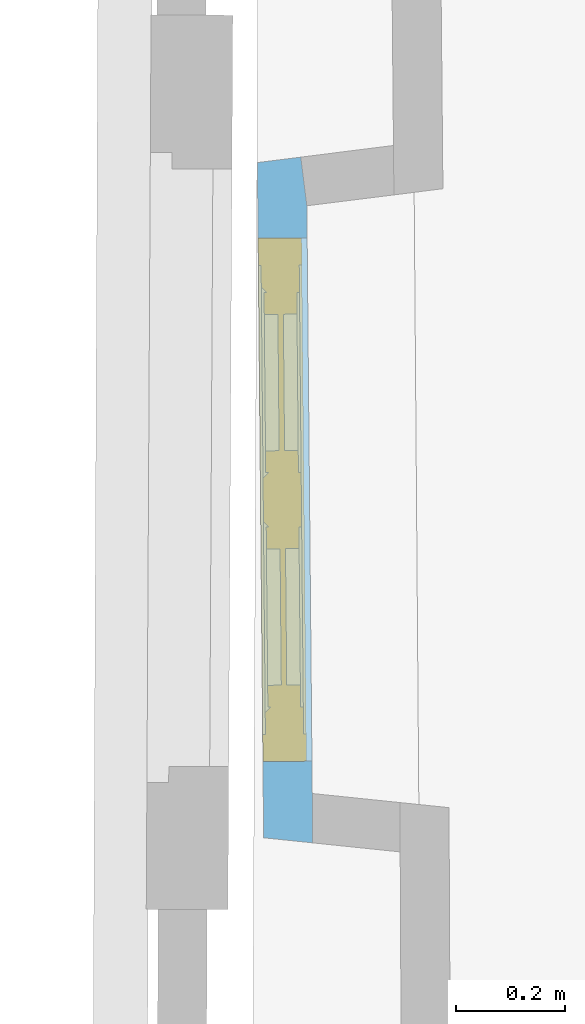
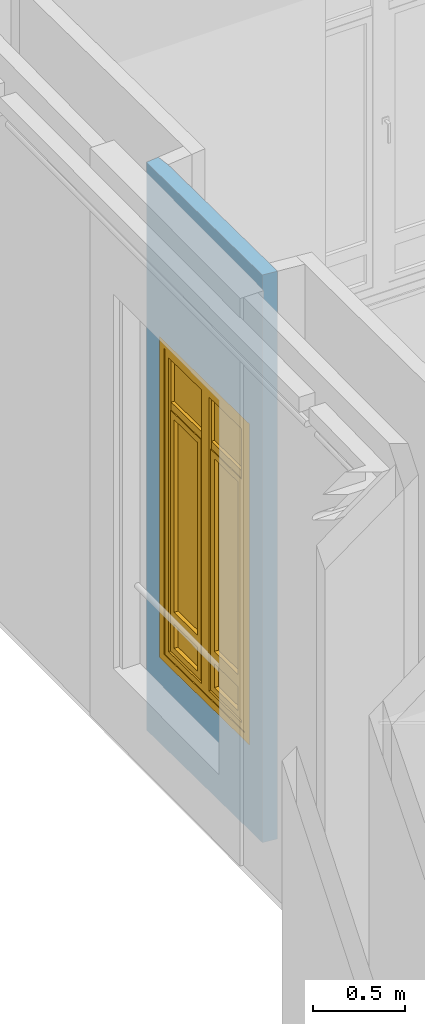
# One storey, part 33 of 66: 1 window, 2 openings, plus 1 element that does not belong to this part.
"""IFC2X3 building model written with IfcOpenShell, lengths in centimetres."""

from ifc_helpers import new_model, entity, si_unit, converted_unit, direction, frame, origin, origin_with_axes, place, context, subcontext, project, spatial, polyline, outline, extrude, faceted_brep, shape, source, transform, mapped, material, material_list, layer, layer_set, layer_usage, type_object, element, fill, save


model = new_model("IFC2X3")

# Units and contexts
model_context = context("Model", 3, precision=0.0001, world=origin(), true_north=direction((0.225632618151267, 0.974212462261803, 0.0)))
body_context = subcontext(model_context, "Body", "Model", "MODEL_VIEW")
footprint_context = subcontext(model_context, "FootPrint", "Model", "MODEL_VIEW")
profile_context = subcontext(model_context, "Profile", "Model", "MODEL_VIEW")
ifc_project = project(units=[si_unit("LENGTHUNIT", "METRE", prefix="CENTI"), si_unit("AREAUNIT", "SQUARE_METRE", prefix="CENTI"), si_unit("VOLUMEUNIT", "CUBIC_METRE", prefix="CENTI"), converted_unit("PLANEANGLEUNIT", "DEGREE", entity("IfcRatioMeasure", 0.0174532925), si_unit("PLANEANGLEUNIT", "RADIAN"), dimensions=[0, 0, 0, 0, 0, 0, 0])], contexts=[model_context])

# Site, building, storey
site_placement = place(None, origin_with_axes())
site = spatial("IfcSite", under=ifc_project, at=site_placement, Name="Default Site", CompositionType="ELEMENT")
building_placement = place(site_placement, origin_with_axes())
building = spatial("IfcBuilding", under=site, at=building_placement, Name="Default Building", CompositionType="ELEMENT")
storey_placement = place(building_placement, frame((0.0, 0.0, 477.795358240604), z_axis=(0.0, 0.0, 1.0), x_axis=(1.0, 0.0, 0.0)))
storey = spatial("IfcBuildingStorey", under=building, at=storey_placement, Name="Niveau 1", CompositionType="ELEMENT", Elevation=477.795358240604)

# Wall, openings, window
ifc_material_1 = material(Name="<aucun>")
ifc_layer = layer(ifc_material_1, 9.0)
ifc_layer_set = layer_set([ifc_layer], Name="default")
ifc_layer_usage = layer_usage(ifc_layer_set, "AXIS2", "POSITIVE", -4.5)
wall_type = type_object("IfcWallType", Name="default 90", PredefinedType="NOTDEFINED", material=ifc_layer_set)
wall_placement = place(storey_placement, frame((-1233.72467583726, 380.76500365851, 0.0128503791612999), z_axis=(0.0, 0.0, 1.0), x_axis=(-0.00919165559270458, 0.999957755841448, 0.0)))
wall = element("IfcWallStandardCase", 1, at=wall_placement, inside=storey, type_object=wall_type, material=ifc_layer_usage, Name="Enveloppe 601372", context=body_context, shape_type="SweptSolid", body=[
    extrude(outline(polyline([(135.22010470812, 4.4999999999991), (11.294850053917, 4.49999999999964), (10.2808484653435, -4.49999999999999), (127.20550541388, -4.5000000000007), (136.145332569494, -3.46101471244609), (135.22010470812, 4.4999999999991)])), frame((0.0, 0.0, -8.88178419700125e-14), z_axis=(0.0, 0.0, 1.0), x_axis=(1.0, 0.0, 0.0)), (0.0, 0.0, 1.0), 376.102165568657),
])
opening_1_placement = place(wall_placement, frame((18.7711194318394, -2.27373675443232e-13, -3.5527136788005e-13), z_axis=(0.0, 0.0, 1.0), x_axis=(-1.0, 4.21537804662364e-15, 0.0)))
cartesian_point_1 = entity("IfcCartesianPoint", [0.0, -1.77635683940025e-13, 52.4999999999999])
cartesian_point_2 = entity("IfcCartesianPoint", [-109.068166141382, -4.49999999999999])
element("IfcOpeningElement", 2, at=opening_1_placement, cuts=wall, Name="Baie 115414", ObjectType="Recess", shapes=[
    shape(body_context, "Body", "Brep", [faceted_brep([(-6.89122297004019e-06, 24.4999788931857, -1.92276751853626e-05), (-109.068144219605, 24.4999788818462, -1.92276751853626e-05), (-109.068144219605, 24.4999788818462, 52.499990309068), (-6.89122297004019e-06, 24.4999788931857, 52.499990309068), (-6.88903966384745e-06, 3.50004163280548, 52.499990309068), (-6.88903966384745e-06, 3.50004163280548, -1.92276751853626e-05), (-7.40036956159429e-06, 3.50004163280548, -1.92276751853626e-05), (-109.068145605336, 3.49996058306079, -1.92276751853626e-05), (-109.068144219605, 24.4999932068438, -1.92276751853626e-05), (-109.068144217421, 3.49996058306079, -1.92276751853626e-05), (-109.068144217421, 3.49996058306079, 52.499990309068), (-109.068144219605, 24.4999932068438, 52.499990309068), (-109.068145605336, 3.49996058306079, 52.499990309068), (-7.40036956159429e-06, 3.50004163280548, 52.499990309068), (-7.40036955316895e-06, 3.49996059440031, -1.92276751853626e-05), (-7.40036955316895e-06, 3.49996059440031, 52.499990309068)], [[[0, 1, 2, 3]], [[3, 4, 5, 0]], [[0, 6, 7, 8]], [[8, 9, 10, 11]], [[11, 12, 13, 3]], [[12, 7, 14, 15]]])]),
    shape(profile_context, "Profile", "GeometricCurveSet", [entity("IfcGeometricCurveSet", [entity("IfcPolyline", [cartesian_point_1, entity("IfcCartesianPoint", [0.0, -1.77635683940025e-13, -8.88178419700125e-14]), entity("IfcCartesianPoint", [-109.068166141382, 0.0, -8.88178419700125e-14]), entity("IfcCartesianPoint", [-109.068166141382, 0.0, 52.4999999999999]), cartesian_point_1])])]),
    shape(footprint_context, "FootPrint", "GeometricCurveSet", [entity("IfcGeometricCurveSet", [entity("IfcPolyline", [cartesian_point_2, entity("IfcCartesianPoint", [8.88178419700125e-14, -4.50000000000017]), entity("IfcCartesianPoint", [0.0, 4.49999999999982]), entity("IfcCartesianPoint", [-109.068166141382, 4.49999999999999]), cartesian_point_2])])]),
])
opening_2_placement = place(wall_placement, frame((25.2711194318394, -2.27373675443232e-13, 56.4871496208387), z_axis=(0.0, 0.0, 1.0), x_axis=(-1.0, 4.21537804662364e-15, 0.0)))
cartesian_point_3 = entity("IfcCartesianPoint", [0.0, 0.0, 212.703082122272])
cartesian_point_4 = entity("IfcCartesianPoint", [-96.0681661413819, -4.49999999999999])
opening_2 = element("IfcOpeningElement", 3, at=opening_2_placement, cuts=wall, Name="4294966427_11", ObjectType="Opening", shapes=[
    shape(body_context, "Body", "SweptSolid", [extrude(outline(polyline([(0.0, 212.703082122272), (0.0, 0.0), (96.0681661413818, 0.0), (96.0681661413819, 212.703082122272), (0.0, 212.703082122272)])), frame((0.0, -14.5, 0.0), z_axis=(0.0, 1.0, 0.0), x_axis=(-1.0, 0.0, 0.0)), (0.0, 0.0, 1.0), 29.0)]),
    shape(profile_context, "Profile", "GeometricCurveSet", [entity("IfcGeometricCurveSet", [entity("IfcPolyline", [cartesian_point_3, entity("IfcCartesianPoint", [0.0, 0.0, 0.0]), entity("IfcCartesianPoint", [-96.0681661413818, 0.0, 0.0]), entity("IfcCartesianPoint", [-96.0681661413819, 0.0, 212.703082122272]), cartesian_point_3])])]),
    shape(footprint_context, "FootPrint", "GeometricCurveSet", [entity("IfcGeometricCurveSet", [entity("IfcPolyline", [cartesian_point_4, entity("IfcCartesianPoint", [0.0, -4.49999999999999]), entity("IfcCartesianPoint", [-8.88178419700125e-14, 4.49999999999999]), entity("IfcCartesianPoint", [-96.0681661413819, 4.49999999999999]), cartesian_point_4])])]),
])
ifc_material_2 = material(Name="Transparent")
ifc_material_3 = material(Name="Vert clair_porte")
ifc_material_4 = material(Name="Noyer 01")
ifc_material_5 = material(Name="Aluminium satiné")
ifc_material_list = material_list([ifc_material_2, ifc_material_3, ifc_material_4, ifc_material_5])
window_style = type_object("IfcWindowStyle", Name="FN[R] 2VB[2V] MM", ConstructionType="NOTDEFINED", OperationType="NOTDEFINED", ParameterTakesPrecedence=False, Sizeable=False, material=ifc_material_list)
shared_shape = source(origin_with_axes(), body_context, "Body", "Brep", [
    faceted_brep([(-43.0340826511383, 207.70308971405, -3.99999991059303), (-43.0340826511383, 207.70308971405, 3.99999991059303), (-43.0340826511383, 5.00000007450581, 3.99999991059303), (-43.0340826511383, 5.00000007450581, -3.99999991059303), (-48.0340838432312, 212.703084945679, 3.99999991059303), (-48.0340838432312, 8.88178419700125e-14, 3.99999991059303), (-48.0340838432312, 212.703084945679, -3.99999991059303), (-48.0340838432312, 8.88178419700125e-14, -3.99999991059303), (43.0340826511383, 5.0000000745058, 3.99999991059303), (43.0340826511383, 5.0000000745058, -3.99999991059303), (48.0340838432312, 8.88178419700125e-14, 3.99999991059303), (43.0340826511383, 5.00000007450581, 3.99999991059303), (48.0340838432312, 8.88178419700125e-14, -3.99999991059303), (43.0340826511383, 5.00000007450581, -3.99999991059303), (43.0340826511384, 207.70308971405, 3.99999991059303), (43.0340826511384, 207.70308971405, -3.99999991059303), (48.0340838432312, 212.703084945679, 3.99999991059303), (43.0340826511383, 207.70308971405, 3.99999991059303), (48.0340838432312, 212.703084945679, -3.99999991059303), (43.0340826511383, 207.70308971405, -3.99999991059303)], [[[0, 1, 2, 3]], [[1, 4, 5, 2]], [[4, 6, 7, 5]], [[6, 0, 3, 7]], [[3, 2, 8, 9]], [[2, 5, 10, 11]], [[5, 7, 12, 10]], [[7, 3, 13, 12]], [[13, 11, 14, 15]], [[11, 10, 16, 17]], [[10, 12, 18, 16]], [[12, 13, 19, 18]], [[19, 17, 1, 0]], [[17, 16, 4, 1]], [[16, 18, 6, 4]], [[18, 19, 0, 6]]]),
    faceted_brep([(-39.0340834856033, 203.703093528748, -3.50000001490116), (-38.0340839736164, 202.703070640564, -2.50000050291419), (-38.0340839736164, 10.0000001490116, -2.50000050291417), (-39.0340834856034, 9.00000035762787, -3.50000001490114), (-38.0340844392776, 202.703070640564, -2.5000000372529), (-38.0340844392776, 202.703070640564, 3.50000001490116), (-38.0340844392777, 10.0000001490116, 3.50000001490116), (-38.0340844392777, 10.0000001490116, -2.5000000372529), (-43.0340826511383, 207.70308971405, 3.50000001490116), (-43.0340826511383, 5.00000007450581, 3.50000001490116), (-43.0340826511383, 207.70308971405, -3.50000001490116), (-43.0340826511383, 5.00000007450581, -3.50000001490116), (-39.0340834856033, 9.00000035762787, -3.50000001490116), (-38.0340844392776, 10.0000002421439, -2.50000013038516), (-5.00000007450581, 10.0000002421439, -2.50000013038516), (-3.99999991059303, 9.00000035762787, -3.50000001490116), (-5.00000007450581, 10.0000001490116, 3.50000001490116), (-5.00000007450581, 10.0000001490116, -2.5000000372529), (6.66133814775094e-14, 5.00000007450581, 3.50000001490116), (6.66133814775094e-14, 5.00000007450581, -3.50000001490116), (-4.99999998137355, 10.0000001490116, -2.49999994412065), (-4.99999998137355, 202.703070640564, -2.49999994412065), (-3.99999991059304, 203.703093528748, -3.50000001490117), (-5.00000007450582, 202.703070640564, 3.50000001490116), (-5.00000007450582, 202.703070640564, -2.5000000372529), (7.7715611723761e-14, 207.70308971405, 3.50000001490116), (-5.00000007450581, 202.703070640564, 3.50000001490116), (7.77156122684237e-14, 207.70308971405, -3.50000001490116), (7.77156122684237e-14, 207.70308971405, 3.50000001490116), (-3.99999991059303, 203.703093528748, -3.50000001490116), (7.7715611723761e-14, 207.70308971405, -3.50000001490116), (-5.00000007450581, 202.703082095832, -2.49998858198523), (-38.0340844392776, 202.703082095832, -2.49998858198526), (-39.0340834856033, 203.703093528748, -3.50000001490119), (-5.00000007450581, 202.703070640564, -2.5000000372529)], [[[0, 1, 2, 3]], [[4, 5, 6, 7]], [[5, 8, 9, 6]], [[8, 10, 11, 9]], [[10, 0, 12, 11]], [[12, 13, 14, 15]], [[7, 6, 16, 17]], [[6, 9, 18, 16]], [[9, 11, 19, 18]], [[11, 12, 15, 19]], [[15, 20, 21, 22]], [[17, 16, 23, 24]], [[16, 18, 25, 26]], [[18, 19, 27, 28]], [[19, 15, 29, 30]], [[29, 31, 32, 33]], [[34, 26, 5, 4]], [[26, 25, 8, 5]], [[25, 30, 10, 8]], [[30, 29, 0, 10]]]),
    faceted_brep([(-5.00000007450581, 202.703070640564, -0.499999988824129), (-5.00000007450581, 174.547624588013, -0.499999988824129), (-38.0340844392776, 174.547624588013, -0.499999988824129), (-38.0340844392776, 202.703070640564, -0.499999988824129), (-38.0340844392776, 202.703070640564, 0.499999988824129), (-38.0340844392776, 174.547624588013, 0.499999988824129), (-5.00000007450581, 174.547624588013, 0.499999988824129), (-5.00000007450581, 202.703070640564, 0.499999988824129)], [[[0, 1, 2, 3]], [[4, 5, 6, 7]], [[3, 2, 5, 4]], [[2, 1, 6, 5]], [[1, 0, 7, 6]], [[0, 3, 4, 7]]]),
    faceted_brep([(-5.00000007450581, 169.547617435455, 2.5000000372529), (-5.00000007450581, 169.547617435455, -2.5000000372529), (-5.00000007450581, 174.547624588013, -2.5000000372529), (-5.00000007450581, 174.547624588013, 2.5000000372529), (-38.0340844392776, 174.547624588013, 2.5000000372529), (-38.0340844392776, 174.547624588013, -2.5000000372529), (-38.0340844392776, 169.547617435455, -2.5000000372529), (-38.0340844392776, 169.547617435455, 2.5000000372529)], [[[0, 1, 2, 3]], [[4, 5, 6, 7]], [[3, 2, 5, 4]], [[2, 1, 6, 5]], [[1, 0, 7, 6]], [[0, 3, 4, 7]]]),
    faceted_brep([(-34.0340822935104, 165.547621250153, -2.99999993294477), (-34.0340822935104, 165.547621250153, 2.99999993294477), (-34.0340822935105, 37.9321426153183, 2.99999993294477), (-34.0340822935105, 37.9321426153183, -2.99999993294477), (-38.0340844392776, 169.547617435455, 2.99999993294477), (-38.0340844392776, 33.9321434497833, 2.99999993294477), (-34.0340822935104, 37.9321426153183, 2.99999993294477), (-38.0340844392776, 169.547617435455, -2.99999993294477), (-38.0340844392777, 33.9321434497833, -2.99999993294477), (-34.0340822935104, 37.9321426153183, -2.99999993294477), (-9.00000035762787, 37.9321426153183, 2.99999993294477), (-9.00000035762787, 37.9321426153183, -2.99999993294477), (-5.00000007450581, 33.9321434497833, 2.99999993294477), (-5.00000007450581, 33.9321434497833, -2.99999993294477), (-9.00000035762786, 165.547621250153, 2.99999993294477), (-9.00000035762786, 165.547621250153, -2.99999993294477), (-5.00000007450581, 169.547617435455, 2.99999993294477), (-9.00000035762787, 165.547621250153, 2.99999993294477), (-5.0000000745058, 169.547617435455, -2.99999993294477), (-5.0000000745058, 169.547617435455, 2.99999993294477), (-9.00000035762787, 165.547621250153, -2.99999993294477), (-5.00000007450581, 169.547617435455, -2.99999993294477)], [[[0, 1, 2, 3]], [[1, 4, 5, 6]], [[4, 7, 8, 5]], [[7, 0, 9, 8]], [[9, 6, 10, 11]], [[6, 5, 12, 10]], [[5, 8, 13, 12]], [[8, 9, 11, 13]], [[11, 10, 14, 15]], [[10, 12, 16, 17]], [[12, 13, 18, 19]], [[13, 11, 20, 21]], [[20, 17, 1, 0]], [[17, 16, 4, 1]], [[16, 21, 7, 4]], [[21, 20, 0, 7]]]),
    faceted_brep([(-9.00000035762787, 165.547621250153, -0.499999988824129), (-9.00000035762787, 37.9321426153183, -0.499999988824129), (-34.0340822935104, 37.9321426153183, -0.499999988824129), (-34.0340822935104, 165.547621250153, -0.499999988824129), (-34.0340822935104, 165.547621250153, 0.499999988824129), (-34.0340822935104, 37.9321426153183, 0.499999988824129), (-9.00000035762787, 37.9321426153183, 0.499999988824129), (-9.00000035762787, 165.547621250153, 0.499999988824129), (-34.0340822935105, 37.9321426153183, -0.499999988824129), (-34.0340822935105, 37.9321426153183, 0.499999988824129), (-9.00000035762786, 165.547621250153, -0.499999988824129), (-9.00000035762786, 165.547621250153, 0.499999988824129)], [[[0, 1, 2, 3]], [[4, 5, 6, 7]], [[3, 8, 9, 4]], [[2, 1, 6, 5]], [[1, 10, 11, 6]], [[0, 3, 4, 7]]]),
    faceted_brep([(-34.0340822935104, 29.9321442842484, -2.99999993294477), (-34.0340822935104, 29.9321442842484, 2.99999993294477), (-34.0340822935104, 14.0000000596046, 2.99999993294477), (-34.0340822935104, 14.0000000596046, -2.99999993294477), (-38.0340844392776, 33.9321434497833, 2.99999993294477), (-38.0340844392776, 10.0000001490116, 2.99999993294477), (-38.0340844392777, 33.9321434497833, -2.99999993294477), (-38.0340844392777, 10.0000001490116, -2.99999993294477), (-9.00000035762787, 14.0000000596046, 2.99999993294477), (-9.00000035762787, 14.0000000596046, -2.99999993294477), (-5.00000007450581, 10.0000001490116, 2.99999993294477), (-5.00000007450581, 10.0000001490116, -2.99999993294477), (-9.00000035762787, 29.9321442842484, 2.99999993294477), (-9.00000035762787, 29.9321442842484, -2.99999993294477), (-5.00000007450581, 33.9321434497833, 2.99999993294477), (-5.00000007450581, 33.9321434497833, -2.99999993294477)], [[[0, 1, 2, 3]], [[1, 4, 5, 2]], [[4, 6, 7, 5]], [[6, 0, 3, 7]], [[3, 2, 8, 9]], [[2, 5, 10, 8]], [[5, 7, 11, 10]], [[7, 3, 9, 11]], [[9, 8, 12, 13]], [[8, 10, 14, 12]], [[10, 11, 15, 14]], [[11, 9, 13, 15]], [[13, 12, 1, 0]], [[12, 14, 4, 1]], [[14, 15, 6, 4]], [[15, 13, 0, 6]]]),
    faceted_brep([(-9.00000035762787, 29.9321442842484, -0.499999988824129), (-9.00000035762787, 14.0000000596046, -0.499999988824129), (-34.0340822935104, 14.0000000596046, -0.499999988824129), (-34.0340822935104, 29.9321442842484, -0.499999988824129), (-34.0340822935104, 29.9321442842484, 0.499999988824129), (-34.0340822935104, 14.0000000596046, 0.499999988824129), (-9.00000035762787, 14.0000000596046, 0.499999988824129), (-9.00000035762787, 29.9321442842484, 0.499999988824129)], [[[0, 1, 2, 3]], [[4, 5, 6, 7]], [[3, 2, 5, 4]], [[2, 1, 6, 5]], [[1, 0, 7, 6]], [[0, 3, 4, 7]]]),
    faceted_brep([(3.99999991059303, 203.703093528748, -3.50000001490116), (4.99999998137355, 202.703070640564, -2.49999994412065), (4.99999998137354, 10.0000001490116, -2.49999994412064), (3.99999991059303, 9.00000035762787, -3.50000001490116), (5.00000007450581, 202.703070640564, -2.5000000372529), (5.00000007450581, 202.703070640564, 3.50000001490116), (5.0000000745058, 10.0000001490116, 3.50000001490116), (5.0000000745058, 10.0000001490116, -2.5000000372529), (7.7715611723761e-14, 207.70308971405, 3.50000001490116), (6.66133814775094e-14, 5.00000007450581, 3.50000001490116), (5.00000007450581, 10.0000001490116, 3.50000001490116), (7.7715611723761e-14, 207.70308971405, -3.50000001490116), (6.66133809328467e-14, 5.00000007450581, -3.50000001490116), (6.66133809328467e-14, 5.00000007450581, 3.50000001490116), (6.66133814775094e-14, 5.00000007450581, -3.50000001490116), (5.00000007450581, 10.0000002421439, -2.50000013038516), (38.0340844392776, 10.0000002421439, -2.50000013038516), (39.0340834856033, 9.00000035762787, -3.50000001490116), (5.00000007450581, 10.0000001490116, -2.5000000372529), (38.0340844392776, 10.0000001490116, 3.50000001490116), (38.0340844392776, 10.0000001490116, -2.5000000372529), (43.0340826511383, 5.00000007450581, 3.50000001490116), (43.0340826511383, 5.00000007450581, -3.50000001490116), (38.0340839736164, 10.0000001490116, -2.50000050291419), (38.0340839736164, 202.703070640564, -2.50000050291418), (39.0340834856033, 203.703093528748, -3.50000001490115), (38.0340844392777, 202.703070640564, 3.50000001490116), (38.0340844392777, 202.703070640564, -2.5000000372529), (43.0340826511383, 207.70308971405, 3.50000001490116), (43.0340826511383, 207.70308971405, -3.50000001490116), (39.0340834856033, 203.703093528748, -3.50000001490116), (38.0340844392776, 202.703082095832, -2.49998858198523), (5.00000007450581, 202.703082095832, -2.49998858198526), (3.99999991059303, 203.703093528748, -3.50000001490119)], [[[0, 1, 2, 3]], [[4, 5, 6, 7]], [[5, 8, 9, 10]], [[8, 11, 12, 13]], [[11, 0, 3, 14]], [[3, 15, 16, 17]], [[18, 10, 19, 20]], [[10, 9, 21, 19]], [[9, 14, 22, 21]], [[14, 3, 17, 22]], [[17, 23, 24, 25]], [[20, 19, 26, 27]], [[19, 21, 28, 26]], [[21, 22, 29, 28]], [[22, 17, 30, 29]], [[30, 31, 32, 33]], [[27, 26, 5, 4]], [[26, 28, 8, 5]], [[28, 29, 11, 8]], [[29, 30, 0, 11]]]),
    faceted_brep([(4.50000017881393, 108.351540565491, 3.50000001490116), (4.50000017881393, 104.351544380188, 3.50000001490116), (0.499999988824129, 104.351544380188, 3.50000001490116), (0.499999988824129, 108.351540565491, 3.50000001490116), (0.499999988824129, 108.351540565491, 4.30000014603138), (0.499999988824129, 104.351544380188, 4.30000014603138), (4.50000017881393, 104.351544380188, 4.30000014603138), (4.50000017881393, 108.351540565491, 4.30000014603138)], [[[0, 1, 2, 3]], [[4, 5, 6, 7]], [[3, 2, 5, 4]], [[2, 1, 6, 5]], [[1, 0, 7, 6]], [[0, 3, 4, 7]]]),
    faceted_brep([(3.24999988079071, 106.851541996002, 4.30000014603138), (3.24999988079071, 105.851542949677, 4.30000014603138), (1.75000000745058, 105.851542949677, 4.30000014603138), (1.75000000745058, 106.851541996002, 4.30000014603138), (1.75000000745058, 106.851541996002, 8.29999968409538), (1.75000000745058, 105.851542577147, 7.30000026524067), (3.24999988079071, 105.851542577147, 7.30000026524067), (3.24999988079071, 106.851541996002, 8.29999968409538), (1.75000000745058, 105.851542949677, 7.29999989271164), (3.24999988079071, 105.851542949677, 7.29999989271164)], [[[0, 1, 2, 3]], [[4, 5, 6, 7]], [[3, 2, 8, 4]], [[2, 1, 9, 8]], [[1, 0, 7, 9]], [[0, 3, 4, 7]]]),
    faceted_brep([(3.24999988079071, 106.851541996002, 8.29999968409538), (3.24999988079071, 105.851542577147, 7.30000026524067), (1.75000000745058, 105.851542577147, 7.30000026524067), (1.75000000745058, 106.851541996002, 8.29999968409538), (1.75000000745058, 93.8515424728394, 8.29999968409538), (1.75000000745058, 93.8515424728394, 7.29999989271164), (3.24999988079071, 93.8515424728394, 7.29999989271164), (3.24999988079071, 93.8515424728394, 8.29999968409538), (1.75000000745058, 105.851542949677, 7.29999989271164), (3.24999988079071, 105.851542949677, 7.29999989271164)], [[[0, 1, 2, 3]], [[4, 5, 6, 7]], [[3, 8, 5, 4]], [[8, 9, 6, 5]], [[9, 0, 7, 6]], [[0, 3, 4, 7]]]),
    faceted_brep([(38.0340844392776, 202.703070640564, -0.499999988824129), (38.0340844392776, 174.547624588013, -0.499999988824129), (5.00000007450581, 174.547624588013, -0.499999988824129), (5.00000007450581, 202.703070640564, -0.499999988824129), (5.00000007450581, 202.703070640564, 0.499999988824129), (5.00000007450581, 174.547624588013, 0.499999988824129), (38.0340844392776, 174.547624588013, 0.499999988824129), (38.0340844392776, 202.703070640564, 0.499999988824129)], [[[0, 1, 2, 3]], [[4, 5, 6, 7]], [[3, 2, 5, 4]], [[2, 1, 6, 5]], [[1, 0, 7, 6]], [[0, 3, 4, 7]]]),
    faceted_brep([(38.0340844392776, 169.547617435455, 2.5000000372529), (38.0340844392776, 169.547617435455, -2.5000000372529), (38.0340844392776, 174.547624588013, -2.5000000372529), (38.0340844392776, 174.547624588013, 2.5000000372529), (5.00000007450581, 174.547624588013, 2.5000000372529), (5.00000007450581, 174.547624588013, -2.5000000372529), (5.00000007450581, 169.547617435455, -2.5000000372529), (5.00000007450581, 169.547617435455, 2.5000000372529)], [[[0, 1, 2, 3]], [[4, 5, 6, 7]], [[3, 2, 5, 4]], [[2, 1, 6, 5]], [[1, 0, 7, 6]], [[0, 3, 4, 7]]]),
    faceted_brep([(9.00000035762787, 165.547621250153, -2.99999993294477), (9.00000035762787, 165.547621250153, 2.99999993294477), (9.00000035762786, 37.9321426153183, 2.99999993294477), (9.00000035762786, 37.9321426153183, -2.99999993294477), (5.00000007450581, 169.547617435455, 2.99999993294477), (5.00000007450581, 33.9321434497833, 2.99999993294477), (9.00000035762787, 37.9321426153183, 2.99999993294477), (5.00000007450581, 169.547617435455, -2.99999993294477), (5.0000000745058, 33.9321434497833, -2.99999993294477), (5.0000000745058, 33.9321434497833, 2.99999993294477), (9.00000035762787, 37.9321426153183, -2.99999993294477), (5.00000007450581, 33.9321434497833, -2.99999993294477), (34.0340822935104, 37.9321426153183, 2.99999993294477), (34.0340822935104, 37.9321426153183, -2.99999993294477), (38.0340844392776, 33.9321434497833, 2.99999993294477), (38.0340844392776, 33.9321434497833, -2.99999993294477), (34.0340822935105, 165.547621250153, 2.99999993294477), (34.0340822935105, 165.547621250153, -2.99999993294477), (38.0340844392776, 169.547617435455, 2.99999993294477), (34.0340822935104, 165.547621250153, 2.99999993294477), (38.0340844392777, 169.547617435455, -2.99999993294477), (34.0340822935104, 165.547621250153, -2.99999993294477)], [[[0, 1, 2, 3]], [[1, 4, 5, 6]], [[4, 7, 8, 9]], [[7, 0, 10, 11]], [[10, 6, 12, 13]], [[6, 5, 14, 12]], [[5, 11, 15, 14]], [[11, 10, 13, 15]], [[13, 12, 16, 17]], [[12, 14, 18, 19]], [[14, 15, 20, 18]], [[15, 13, 21, 20]], [[21, 19, 1, 0]], [[19, 18, 4, 1]], [[18, 20, 7, 4]], [[20, 21, 0, 7]]]),
    faceted_brep([(34.0340822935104, 165.547621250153, -0.499999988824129), (34.0340822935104, 37.9321426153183, -0.499999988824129), (9.00000035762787, 37.9321426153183, -0.499999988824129), (9.00000035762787, 165.547621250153, -0.499999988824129), (9.00000035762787, 165.547621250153, 0.499999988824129), (9.00000035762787, 37.9321426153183, 0.499999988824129), (34.0340822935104, 37.9321426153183, 0.499999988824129), (34.0340822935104, 165.547621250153, 0.499999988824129), (9.00000035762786, 37.9321426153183, -0.499999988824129), (9.00000035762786, 37.9321426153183, 0.499999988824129), (34.0340822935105, 165.547621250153, -0.499999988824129), (34.0340822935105, 165.547621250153, 0.499999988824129)], [[[0, 1, 2, 3]], [[4, 5, 6, 7]], [[3, 8, 9, 4]], [[2, 1, 6, 5]], [[1, 10, 11, 6]], [[0, 3, 4, 7]]]),
    faceted_brep([(9.00000035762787, 29.9321442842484, -2.99999993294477), (9.00000035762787, 29.9321442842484, 2.99999993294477), (9.00000035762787, 14.0000000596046, 2.99999993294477), (9.00000035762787, 14.0000000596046, -2.99999993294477), (5.00000007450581, 33.9321434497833, 2.99999993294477), (5.00000007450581, 10.0000001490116, 2.99999993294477), (5.00000007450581, 33.9321434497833, -2.99999993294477), (5.00000007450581, 10.0000001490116, -2.99999993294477), (34.0340822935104, 14.0000000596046, 2.99999993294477), (34.0340822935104, 14.0000000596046, -2.99999993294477), (38.0340844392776, 10.0000001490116, 2.99999993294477), (38.0340844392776, 10.0000001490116, -2.99999993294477), (34.0340822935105, 29.9321442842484, 2.99999993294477), (34.0340822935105, 29.9321442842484, -2.99999993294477), (38.0340844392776, 33.9321434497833, 2.99999993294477), (34.0340822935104, 29.9321442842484, 2.99999993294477), (38.0340844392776, 33.9321434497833, -2.99999993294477), (34.0340822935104, 29.9321442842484, -2.99999993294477)], [[[0, 1, 2, 3]], [[1, 4, 5, 2]], [[4, 6, 7, 5]], [[6, 0, 3, 7]], [[3, 2, 8, 9]], [[2, 5, 10, 8]], [[5, 7, 11, 10]], [[7, 3, 9, 11]], [[9, 8, 12, 13]], [[8, 10, 14, 15]], [[10, 11, 16, 14]], [[11, 9, 17, 16]], [[17, 15, 1, 0]], [[15, 14, 4, 1]], [[14, 16, 6, 4]], [[16, 17, 0, 6]]]),
    faceted_brep([(34.0340822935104, 29.9321442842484, -0.499999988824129), (34.0340822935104, 14.0000000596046, -0.499999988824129), (9.00000035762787, 14.0000000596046, -0.499999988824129), (9.00000035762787, 29.9321442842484, -0.499999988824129), (9.00000035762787, 29.9321442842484, 0.499999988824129), (9.00000035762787, 14.0000000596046, 0.499999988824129), (34.0340822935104, 14.0000000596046, 0.499999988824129), (34.0340822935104, 29.9321442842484, 0.499999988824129), (34.0340822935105, 29.9321442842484, -0.499999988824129), (34.0340822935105, 29.9321442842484, 0.499999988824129)], [[[0, 1, 2, 3]], [[4, 5, 6, 7]], [[3, 2, 5, 4]], [[2, 1, 6, 5]], [[1, 8, 9, 6]], [[0, 3, 4, 7]]]),
])
window_placement = place(opening_2_placement, frame((-96.0681661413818, -4.5, 7.105427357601e-15), z_axis=(0.0, 0.0, 1.0), x_axis=(1.0, 0.0, 0.0)))
window = element("IfcWindow", 4, at=window_placement, inside=storey, type_object=window_style, material=ifc_material_list, Name="Fenêtre 115415", OverallHeight=212.703082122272, OverallWidth=96.0681661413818, context=body_context, shape_type="MappedRepresentation", body=[
    mapped(shared_shape, transform((48.0340830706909, 4.00000000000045, 8.88178419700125e-14), x_axis=(-1.0, 0.0, 0.0), y_axis=(0.0, 0.0, 1.0), z_axis=(0.0, 1.0, 0.0), scale=1.0, scale2=1.0, scale3=1.0, uniform=False)),
])
fill(opening_2, window)

save(model, "model.ifc")
